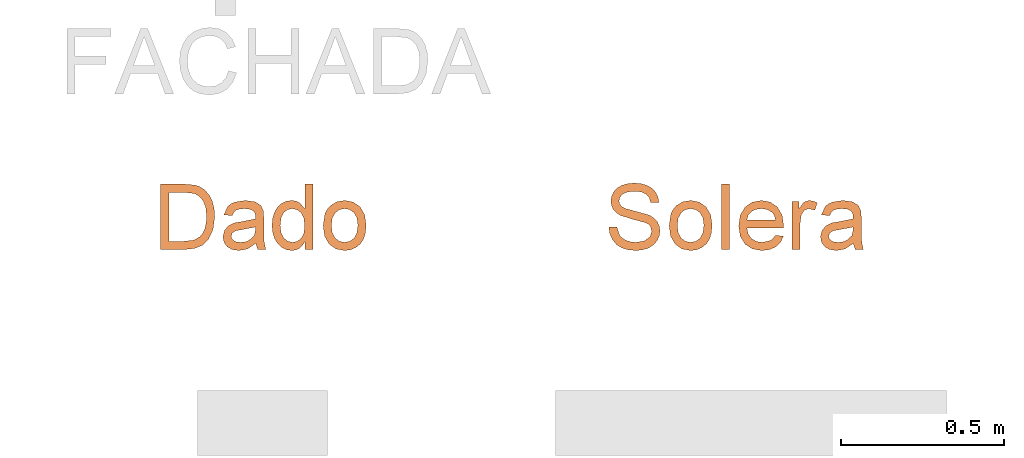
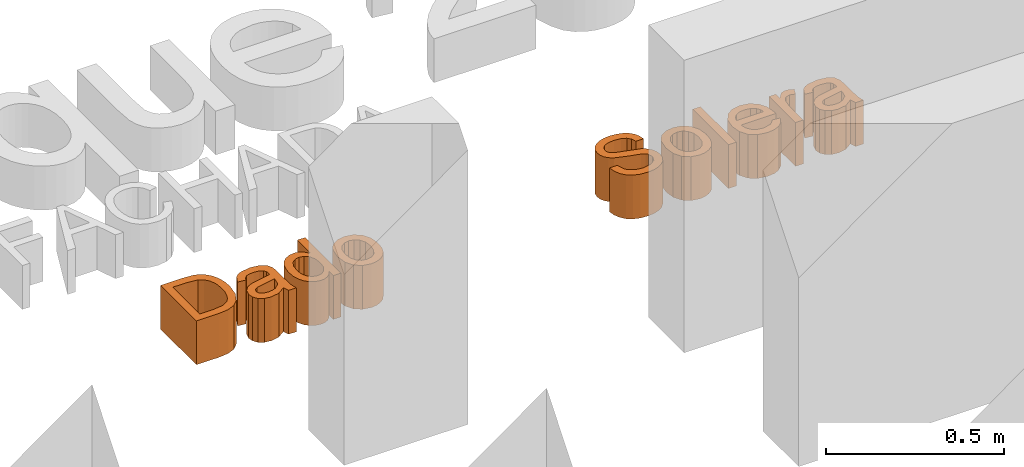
# One storey, part 19 of 19: 2 proxies.
"""IFC2X3 building model written with IfcOpenShell, lengths in metres."""

import ifcopenshell
import ifcopenshell.guid

model = None  # the IFC model being written
_history = None  # IfcOwnerHistory: only IFC2X3 demands one
_inside = {}  # id of a spatial element -> (the spatial element, [elements in it])
_under = {}  # id of a project, library or spatial element -> (it, [spatial elements below it])
_declared = {}  # id of a project -> (the project, [libraries it declares])
_typed = {}  # id of a type object -> (the type object, [elements of that type])
_made_of = {}  # id of a material, layer set ... -> (it, [elements and type objects made of it])


def new_model(schema):
    """Start an empty IFC model of exactly this schema.

    Asked for "IFC4X3", IfcOpenShell would pick the latest addendum, in which some entities
    have other attributes; the version numbers below select the first issue.
    IFC2X3 requires an IfcOwnerHistory on every rooted entity: one is made here for all.
    """
    global model, _history
    if schema == "IFC4X3":
        model = ifcopenshell.file(schema_version=(4, 3, 0, 0))
    else:
        model = ifcopenshell.file(schema=schema)
    _inside.clear()
    _under.clear()
    _declared.clear()
    _typed.clear()
    _made_of.clear()
    _history = None
    if model.schema == "IFC2X3":
        org = make("IfcOrganization", Name="unknown")
        user = make(
            "IfcPersonAndOrganization",
            ThePerson=make("IfcPerson", FamilyName="unknown"),
            TheOrganization=org,
        )
        app = make(
            "IfcApplication",
            ApplicationDeveloper=org,
            Version="unknown",
            ApplicationFullName="unknown",
            ApplicationIdentifier="unknown",
        )
        _history = make(
            "IfcOwnerHistory",
            OwningUser=user,
            OwningApplication=app,
            ChangeAction="ADDED",
            CreationDate=0,
        )
    return model


def make(cls, **values):
    """One entity of the class cls with the attributes given. An attribute that is None is left unset."""
    return model.create_entity(
        cls, **{name: value for name, value in values.items() if value is not None}
    )


def entity(cls, *values):
    """Any entity or typed value of the class cls, its attributes in the order of the schema. None: left unset."""
    e = model.create_entity(cls)
    for i, value in enumerate(values):
        if value is not None:
            e[i] = value
    return e


def rooted(cls, **values):
    """An entity with a GlobalId (a new one), such as an element, a storey or a relation."""
    return make(cls, GlobalId=ifcopenshell.guid.new(), OwnerHistory=_history, **values)


def si_unit(unit_type, name, prefix=None):
    """IfcSIUnit, for example si_unit("LENGTHUNIT", "METRE", prefix="MILLI")."""
    return make("IfcSIUnit", UnitType=unit_type, Prefix=prefix, Name=name)


def converted_unit(unit_type, name, factor, base, dimensions=None, offset=None):
    """IfcConversionBasedUnit, such as the inch: factor (a typed value) times the base unit."""
    return make(
        "IfcConversionBasedUnit"
        if offset is None
        else "IfcConversionBasedUnitWithOffset",
        ConversionOffset=offset,
        Dimensions=None
        if dimensions is None
        else entity("IfcDimensionalExponents", *dimensions),
        UnitType=unit_type,
        Name=name,
        ConversionFactor=make(
            "IfcMeasureWithUnit", ValueComponent=factor, UnitComponent=base
        ),
    )


def derived_unit(unit_type, elements):
    """IfcDerivedUnit: a product of units, each with its exponent."""
    return make(
        "IfcDerivedUnit",
        Elements=[
            make("IfcDerivedUnitElement", Unit=unit, Exponent=power)
            for unit, power in elements
        ],
        UnitType=unit_type,
    )


def assignment(units):
    """IfcUnitAssignment: the units of a project."""
    return None if units is None else make("IfcUnitAssignment", Units=units)


def point(xyz):
    """IfcCartesianPoint."""
    return None if xyz is None else make("IfcCartesianPoint", Coordinates=xyz)


def direction(xyz):
    """IfcDirection."""
    return None if xyz is None else make("IfcDirection", DirectionRatios=xyz)


def frame(location, z_axis=None, x_axis=None):
    """IfcAxis2Placement3D, a coordinate frame: its origin and axes. An axis left out is left unset."""
    return make(
        "IfcAxis2Placement3D",
        Location=point(location),
        Axis=direction(z_axis),
        RefDirection=direction(x_axis),
    )


def frame_2d(location, x_axis=None):
    """IfcAxis2Placement2D, a coordinate frame in the plane: its origin and x axis."""
    return make(
        "IfcAxis2Placement2D", Location=point(location), RefDirection=direction(x_axis)
    )


def origin():
    """The frame at (0, 0, 0) with its axes left unset."""
    return frame((0.0, 0.0, 0.0))


def place(relative_to, where):
    """IfcLocalPlacement: puts the frame where relative to a parent placement (None: the world)."""
    return make(
        "IfcLocalPlacement", PlacementRelTo=relative_to, RelativePlacement=where
    )


def context(
    kind, dimensions, precision=None, world=None, true_north=None, identifier=None
):
    """IfcGeometricRepresentationContext, for example the 3D "Model" context."""
    return make(
        "IfcGeometricRepresentationContext",
        ContextIdentifier=identifier,
        ContextType=kind,
        CoordinateSpaceDimension=dimensions,
        Precision=precision,
        WorldCoordinateSystem=world,
        TrueNorth=true_north,
    )


def subcontext(parent, identifier, kind, view, scale=None):
    """IfcGeometricRepresentationSubContext, for example "Body" below "Model"."""
    return make(
        "IfcGeometricRepresentationSubContext",
        ContextIdentifier=identifier,
        ContextType=kind,
        ParentContext=parent,
        TargetScale=scale,
        TargetView=view,
    )


def project(units=None, contexts=None):
    """IfcProject with its units and contexts."""
    return rooted(
        "IfcProject",
        Name="project",
        RepresentationContexts=contexts,
        UnitsInContext=assignment(units),
    )


def spatial(cls, under=None, at=None, **own):
    """A site, building, storey or space (cls), placed at a placement, below another one or the project."""
    s = rooted(cls, ObjectPlacement=at, **own)
    if under is not None:
        _under.setdefault(under.id(), (under, []))[1].append(s)
    return s


def polyline(points):
    """IfcPolyline through the points."""
    return make("IfcPolyline", Points=[point(p) for p in points])


def profile(cls, at=None, kind="AREA", **sizes):
    """A parametric profile (cls). Its sizes go by their IFC names, for example OverallWidth=200.0."""
    return make(cls, ProfileType=kind, Position=at, **sizes)


def rectangle(**sizes):
    """IfcRectangleProfileDef."""
    return profile("IfcRectangleProfileDef", **sizes)


def outline(outer, holes=None, kind="AREA"):
    """IfcArbitraryClosedProfileDef: a profile drawn as a closed curve; with holes, ...WithVoids."""
    if holes is None:
        return make("IfcArbitraryClosedProfileDef", ProfileType=kind, OuterCurve=outer)
    return make(
        "IfcArbitraryProfileDefWithVoids",
        ProfileType=kind,
        OuterCurve=outer,
        InnerCurves=holes,
    )


def extrude(swept, where, along, depth):
    """IfcExtrudedAreaSolid: the profile swept, set in the frame where, extruded along a direction by depth."""
    return make(
        "IfcExtrudedAreaSolid",
        SweptArea=swept,
        Position=where,
        ExtrudedDirection=direction(along),
        Depth=depth,
    )


def shape(context_of_items, identifier, shape_type, items):
    """IfcShapeRepresentation: the items that make up one representation, for example the "Body"."""
    return make(
        "IfcShapeRepresentation",
        ContextOfItems=context_of_items,
        RepresentationIdentifier=identifier,
        RepresentationType=shape_type,
        Items=items,
    )


def made_of(thing, what):
    """Note that an element or type object is made of a material, layer set ...; save() writes the relation."""
    if what is not None:
        _made_of.setdefault(what.id(), (what, []))[1].append(thing)
    return thing


def type_object(cls, material=None, **own):
    """A type object (cls), such as IfcWallType, which elements share."""
    return made_of(rooted(cls, **own), material)


def element(
    cls,
    number,
    at=None,
    inside=None,
    cuts=None,
    type_object=None,
    material=None,
    context=None,
    identifier="Body",
    shape_type=None,
    held_by="IfcProductDefinitionShape",
    body=None,
    shapes=None,
    **own,
):
    """One element of the class cls, such as IfcWall. Its Tag is "e" and its number.

    at: its placement. inside: the storey or other place that contains it. cuts: it is an
    opening in that element (IfcRelVoidsElement). A single representation is given by context,
    identifier, shape_type and body (its items); several are given by shapes. held_by: the class
    of the entity that holds the representations. save() writes the other relations.
    """
    e = rooted(cls, Tag="e%d" % number, ObjectPlacement=at, **own)
    if body is not None:
        shapes = [shape(context, identifier, shape_type, body)]
    if shapes is not None:
        e.Representation = make(held_by, Representations=shapes)
    if inside is not None:
        _inside.setdefault(inside.id(), (inside, []))[1].append(e)
    if cuts is not None:
        rooted(
            "IfcRelVoidsElement", RelatingBuildingElement=cuts, RelatedOpeningElement=e
        )
    if type_object is not None:
        _typed.setdefault(type_object.id(), (type_object, []))[1].append(e)
    return made_of(e, material)


def aggregate(whole, parts):
    """IfcRelAggregates: a whole, such as a stair, and the parts it consists of."""
    return rooted("IfcRelAggregates", RelatingObject=whole, RelatedObjects=parts)


def save(model, path):
    """Write the relations noted so far, then the file.

    IfcRelAggregates (storeys below a building ...), IfcRelContainedInSpatialStructure (elements
    in a storey), IfcRelDefinesByType, IfcRelAssociatesMaterial and IfcRelDeclares: one each for
    every whole, place, type object, material and project.
    """
    for whole, parts in _under.values():
        aggregate(whole, parts)
    for where, things in _inside.values():
        rooted(
            "IfcRelContainedInSpatialStructure",
            RelatedElements=things,
            RelatingStructure=where,
        )
    for kind, things in _typed.values():
        rooted("IfcRelDefinesByType", RelatedObjects=things, RelatingType=kind)
    for what, things in _made_of.values():
        rooted("IfcRelAssociatesMaterial", RelatedObjects=things, RelatingMaterial=what)
    for by, libraries in _declared.values():
        rooted("IfcRelDeclares", RelatingContext=by, RelatedDefinitions=libraries)
    model.write(path)


model = new_model("IFC2X3")

# Units and contexts
model_context = context("Model", 3, precision=1e-05, world=origin(), true_north=direction((6.12303176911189e-17, 1.0)))
body_context = subcontext(model_context, "Body", "Model", "MODEL_VIEW")
ifc_project = project(units=[si_unit("LENGTHUNIT", "METRE"), si_unit("AREAUNIT", "SQUARE_METRE"), si_unit("VOLUMEUNIT", "CUBIC_METRE"), converted_unit("PLANEANGLEUNIT", "DEGREE", entity("IfcRatioMeasure", 0.0174532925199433), si_unit("PLANEANGLEUNIT", "RADIAN"), dimensions=[0, 0, 0, 0, 0, 0, 0]), si_unit("MASSUNIT", "GRAM", prefix="KILO"), derived_unit("MASSDENSITYUNIT", [(si_unit("MASSUNIT", "GRAM", prefix="KILO"), 1), (si_unit("LENGTHUNIT", "METRE"), -3)]), derived_unit("MOMENTOFINERTIAUNIT", [(si_unit("LENGTHUNIT", "METRE"), 4)]), si_unit("TIMEUNIT", "SECOND"), si_unit("FREQUENCYUNIT", "HERTZ"), si_unit("THERMODYNAMICTEMPERATUREUNIT", "DEGREE_CELSIUS"), derived_unit("THERMALTRANSMITTANCEUNIT", [(si_unit("MASSUNIT", "GRAM", prefix="KILO"), 1), (si_unit("THERMODYNAMICTEMPERATUREUNIT", "KELVIN"), -1), (si_unit("TIMEUNIT", "SECOND"), -3)]), derived_unit("VOLUMETRICFLOWRATEUNIT", [(si_unit("LENGTHUNIT", "METRE"), 3), (si_unit("TIMEUNIT", "SECOND"), -1)]), si_unit("ELECTRICCURRENTUNIT", "AMPERE"), si_unit("ELECTRICVOLTAGEUNIT", "VOLT"), si_unit("POWERUNIT", "WATT"), si_unit("FORCEUNIT", "NEWTON", prefix="KILO"), si_unit("ILLUMINANCEUNIT", "LUX"), si_unit("LUMINOUSFLUXUNIT", "LUMEN"), si_unit("LUMINOUSINTENSITYUNIT", "CANDELA"), derived_unit("USERDEFINED", [(si_unit("MASSUNIT", "GRAM", prefix="KILO"), -1), (si_unit("LENGTHUNIT", "METRE"), -2), (si_unit("TIMEUNIT", "SECOND"), 3), (si_unit("LUMINOUSFLUXUNIT", "LUMEN"), 1)]), derived_unit("LINEARVELOCITYUNIT", [(si_unit("LENGTHUNIT", "METRE"), 1), (si_unit("TIMEUNIT", "SECOND"), -1)]), si_unit("PRESSUREUNIT", "PASCAL"), derived_unit("USERDEFINED", [(si_unit("LENGTHUNIT", "METRE"), -2), (si_unit("MASSUNIT", "GRAM", prefix="KILO"), 1), (si_unit("TIMEUNIT", "SECOND"), -2)]), derived_unit("LINEARFORCEUNIT", [(si_unit("MASSUNIT", "GRAM", prefix="KILO"), 1), (si_unit("LENGTHUNIT", "METRE"), 1), (si_unit("TIMEUNIT", "SECOND"), -2), (si_unit("LENGTHUNIT", "METRE"), -1)]), derived_unit("PLANARFORCEUNIT", [(si_unit("MASSUNIT", "GRAM", prefix="KILO"), 1), (si_unit("LENGTHUNIT", "METRE"), 1), (si_unit("TIMEUNIT", "SECOND"), -2), (si_unit("LENGTHUNIT", "METRE"), -2)])], contexts=[model_context])

# Site, building, storey
site_placement = place(None, origin())
site = spatial("IfcSite", under=ifc_project, at=site_placement, Name="Default", CompositionType="ELEMENT")
building_placement = place(site_placement, origin())
building = spatial("IfcBuilding", under=site, at=building_placement, CompositionType="ELEMENT")
storey_placement = place(building_placement, origin())
storey = spatial("IfcBuildingStorey", under=building, at=storey_placement, Name="Nivel 1", CompositionType="ELEMENT", Elevation=0.0)

# Proxies
building_element_proxy_type_1 = type_object("IfcBuildingElementProxyType", Name="Texto de modelo:Subtítulo", PredefinedType="NOTDEFINED")
proxy_1_placement = place(storey_placement, origin())
element("IfcBuildingElementProxy", 1, at=proxy_1_placement, inside=storey, type_object=building_element_proxy_type_1, Name="Texto de modelo:Subtítulo", ObjectType="Texto de modelo:Subtítulo", context=body_context, shape_type="SweptSolid", body=[
    extrude(outline(polyline([(-0.112205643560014, -0.108781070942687), (-0.0395612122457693, -0.108781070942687), (-0.00726117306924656, -0.105347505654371), (0.0167492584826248, -0.0952675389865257), (0.0350943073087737, -0.0770451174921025), (0.0488285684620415, -0.0477862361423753), (0.0541751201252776, -0.00724564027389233), (0.052200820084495, 0.0181382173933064), (0.0462779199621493, 0.0405299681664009), (0.0363818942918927, 0.0595617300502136), (0.0224882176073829, 0.074865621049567), (0.00897468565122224, 0.0836580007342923), (-0.00704044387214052, 0.0892375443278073), (-0.0428966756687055, 0.0921315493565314), (-0.112205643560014, 0.0921315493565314), (-0.112205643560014, -0.108781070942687)]), holes=[polyline([(-0.0870915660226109, -0.0836669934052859), (-0.0870915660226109, 0.0670174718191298), (-0.0433381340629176, 0.0670174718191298), (-0.00772715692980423, 0.06299529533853), (0.00646695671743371, 0.0546075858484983), (0.0183434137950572, 0.0407261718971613), (0.0263816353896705, 0.0205171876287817), (0.029061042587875, -0.00685323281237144), (0.027693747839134, -0.0275098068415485), (0.0235918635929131, -0.04484318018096), (0.0170374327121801, -0.0589146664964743), (0.00831249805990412, -0.0697855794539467), (-0.0103268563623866, -0.0800372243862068), (-0.0426514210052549, -0.0836669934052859), (-0.0870915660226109, -0.0836669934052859)])]), frame((8.85097390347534, 10.1620496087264, 0.0)), (0.0, 0.0, 1.0), 0.15),
    extrude(outline(polyline([(0.0711345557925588, 0.0146039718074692), (0.0909889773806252, 0.0146039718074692), (0.0989307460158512, 0.0384292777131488), (0.0773157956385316, 0.0403604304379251), (0.0355206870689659, 0.0529478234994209), (0.00587865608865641, 0.0628285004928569), (-0.0153562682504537, 0.0686142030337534), (-0.0339620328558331, 0.0666985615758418), (-0.0500317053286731, 0.0539327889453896), (-0.0638910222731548, 0.0264700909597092), (-0.0695759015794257, -0.00656115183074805), (-0.0677610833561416, -0.0204670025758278), (-0.0628595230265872, -0.0318600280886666), (-0.0430283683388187, -0.049922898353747), (-0.0321084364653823, -0.0270903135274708), (-0.0404360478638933, -0.0190535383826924), (-0.0445407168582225, -0.0101752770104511), (-0.0446745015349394, 0.000882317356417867), (-0.0410894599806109, 0.0154570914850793), (-0.0342567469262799, 0.0302160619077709), (-0.0254230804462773, 0.039499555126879), (-0.0168259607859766, 0.0421015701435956), (-0.00564621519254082, 0.0401975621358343), (-0.000387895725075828, 0.0382896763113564), (-0.00597195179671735, -0.00576232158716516), (-0.0092603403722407, -0.0275711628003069), (-0.00700345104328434, -0.0468594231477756), (0.00268333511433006, -0.0634021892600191), (0.0200094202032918, -0.0742445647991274), (0.0370349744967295, -0.0765654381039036), (0.0529320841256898, -0.0718015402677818), (0.0663086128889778, -0.0599412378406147), (0.0757724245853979, -0.0409728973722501), (0.0795804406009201, -0.0138824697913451), (0.0711345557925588, 0.0146039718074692)]), holes=[polyline([(0.0234839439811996, 0.0304875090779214), (0.0301848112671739, 0.028098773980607), (0.0473557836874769, 0.0181870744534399), (0.0559722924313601, -0.00195430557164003), (0.0564783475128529, -0.0146871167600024), (0.053637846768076, -0.0279589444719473), (0.0483232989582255, -0.0395982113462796), (0.0415313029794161, -0.0470610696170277), (0.0339521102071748, -0.0504483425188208), (0.026275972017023, -0.0498608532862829), (0.0181946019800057, -0.0435477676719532), (0.0150070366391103, -0.032170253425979), (0.0179774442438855, -0.0103846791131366), (0.0234839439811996, 0.0304875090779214)])]), frame((8.9943701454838, 10.1349700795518, 0.0), z_axis=(0.0, 0.0, 1.0), x_axis=(0.316227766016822, -0.948683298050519, 0.0)), (0.0, 0.0, 1.0), 0.15),
    extrude(outline(polyline([(0.0429290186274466, -0.0757009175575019), (0.0680430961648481, -0.0757009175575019), (0.0680430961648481, 0.125211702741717), (0.0429290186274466, 0.125211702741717), (0.0429290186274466, 0.0503599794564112), (0.0263988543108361, 0.0681409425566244), (0.0155340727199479, 0.0732728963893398), (0.00324681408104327, 0.0749835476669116), (-0.0136205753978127, 0.0725923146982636), (-0.0288079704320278, 0.0654186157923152), (-0.0413650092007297, 0.0537567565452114), (-0.0503413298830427, 0.0379010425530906), (-0.0557308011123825, 0.018930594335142), (-0.0575272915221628, -0.00207546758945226), (-0.0555775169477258, -0.0233451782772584), (-0.0497281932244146, -0.0420274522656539), (-0.0403349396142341, -0.0574968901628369), (-0.0277533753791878, -0.0691280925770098), (-0.0128909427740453, -0.0764121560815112), (0.0033449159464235, -0.0788401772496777), (0.0156229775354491, -0.0771632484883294), (0.0263130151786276, -0.0721324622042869), (0.0354150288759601, -0.0637478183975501), (0.0429290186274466, -0.0520093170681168), (0.0429290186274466, -0.0757009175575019)]), holes=[polyline([(-0.0324132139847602, -0.00197736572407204), (-0.0297644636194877, 0.0213034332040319), (-0.0218182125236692, 0.0373860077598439), (-0.00991109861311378, 0.0467486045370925), (0.00462024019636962, 0.0498694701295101), (0.0195255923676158, 0.0466198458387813), (0.0318680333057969, 0.0368709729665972), (0.0401637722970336, 0.0201813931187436), (0.0429290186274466, -0.00389035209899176), (0.0402128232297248, -0.0259080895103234), (0.0320642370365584, -0.0414388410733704), (0.0200283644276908, -0.0506542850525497), (0.00565030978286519, -0.0537260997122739), (-0.00873387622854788, -0.0505071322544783), (-0.0210824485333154, -0.0408502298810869), (-0.029580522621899, -0.0246940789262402), (-0.0324132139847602, -0.00197736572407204)])]), frame((9.1384748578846, 10.1289694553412, 0.0)), (0.0, 0.0, 1.0), 0.15),
    extrude(outline(polyline([(-0.0116534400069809, -0.0669843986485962), (0.0215735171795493, -0.0669843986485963), (0.0474010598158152, -0.0567621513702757), (0.0650090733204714, -0.0379496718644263), (0.0735774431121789, -0.0121789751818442), (0.0737787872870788, 0.0056879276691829), (0.0693254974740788, 0.0227506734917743), (0.0604863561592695, 0.037820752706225), (0.0475301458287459, 0.0497096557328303), (0.0292360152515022, 0.0584068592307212), (0.00438311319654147, 0.0639018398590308), (-0.0272289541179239, 0.0636287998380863), (-0.0525847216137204, 0.0531926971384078), (-0.0702507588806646, 0.0343634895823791), (-0.0787936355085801, 0.00891113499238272), (-0.0780541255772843, -0.0155295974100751), (-0.0686800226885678, -0.0371544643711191), (-0.0589084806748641, -0.0481042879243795), (-0.0461468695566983, -0.0567258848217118), (-0.0116534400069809, -0.0669843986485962)]), holes=[polyline([(-0.00825874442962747, -0.0421007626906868), (-0.0303624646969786, -0.0361073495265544), (-0.045170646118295, -0.0252557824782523), (-0.0529373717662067, -0.0109345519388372), (-0.0539167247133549, 0.0054678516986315), (-0.0485294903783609, 0.0208219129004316), (-0.0371292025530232, 0.0324839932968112), (-0.0201048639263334, 0.0389852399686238), (0.00215452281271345, 0.038856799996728), (0.024762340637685, 0.032793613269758), (0.039819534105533, 0.0219075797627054), (0.0476807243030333, 0.00759803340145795), (0.0487005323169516, -0.00873569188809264), (0.0432906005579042, -0.0242537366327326), (0.0318894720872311, -0.035921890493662), (0.0146540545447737, -0.0423382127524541), (-0.00825874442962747, -0.0421007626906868)])]), frame((9.30586013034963, 10.1246816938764, 0.0), z_axis=(0.0, 0.0, 1.0), x_axis=(0.137105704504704, -0.990556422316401, 0.0)), (0.0, 0.0, 1.0), 0.15),
])
building_element_proxy_type_2 = type_object("IfcBuildingElementProxyType", Name="Texto de modelo:Subtítulo", PredefinedType="NOTDEFINED")
proxy_2_placement = place(storey_placement, origin())
element("IfcBuildingElementProxy", 2, at=proxy_2_placement, inside=storey, type_object=building_element_proxy_type_2, Name="Texto de modelo:Subtítulo", ObjectType="Texto de modelo:Subtítulo", context=body_context, shape_type="SweptSolid", body=[
    extrude(outline(polyline([(0.0218430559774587, -0.0830511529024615), (0.042343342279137, -0.0830511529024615), (0.0613692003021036, -0.0779015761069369), (0.077829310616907, -0.0679440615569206), (0.0906323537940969, -0.0535202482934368), (0.099836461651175, -0.0344031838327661), (0.105499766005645, -0.0103659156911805), (0.106478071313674, 0.0097489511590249), (0.103281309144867, 0.0283577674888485), (0.0961570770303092, 0.0444883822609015), (0.0853529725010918, 0.0571686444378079), (0.0719268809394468, 0.0659642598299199), (0.0569366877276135, 0.0704409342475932), (0.0416687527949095, 0.0707071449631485), (0.0277006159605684, 0.0668285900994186), (0.0151233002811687, 0.0585811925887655), (0.00402782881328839, 0.0457408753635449), (-0.0149040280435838, 0.00360508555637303), (-0.0258166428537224, -0.0219105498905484), (-0.0347441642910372, -0.0349268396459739), (-0.0432956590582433, -0.0397313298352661), (-0.0531344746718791, -0.0403061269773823), (-0.0639228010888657, -0.035870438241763), (-0.07211984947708, -0.0261140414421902), (-0.0763993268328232, -0.0106988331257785), (-0.0754349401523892, 0.0107132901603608), (-0.0702469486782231, 0.0310091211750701), (-0.061584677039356, 0.0449195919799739), (-0.0494863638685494, 0.0528593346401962), (-0.0339902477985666, 0.0552429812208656), (-0.0303397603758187, 0.0800903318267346), (-0.0472153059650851, 0.0797065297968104), (-0.0628948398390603, 0.074808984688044), (-0.0766029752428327, 0.0654449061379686), (-0.0875643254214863, 0.0516615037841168), (-0.0955734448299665, 0.0340978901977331), (-0.100424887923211, 0.0133931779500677), (-0.101575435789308, -0.00620680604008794), (-0.099066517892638, -0.0244356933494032), (-0.0928592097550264, -0.0402270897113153), (-0.0829145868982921, -0.0525146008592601), (-0.0702935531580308, -0.0609688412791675), (-0.0560570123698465, -0.0652604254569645), (-0.0427830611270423, -0.0654319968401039), (-0.0303321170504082, -0.0619254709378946), (-0.0189136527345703, -0.0546481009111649), (-0.00873714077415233, -0.0435071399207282), (0.00923839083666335, -0.00636211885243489), (0.024041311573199, 0.0284230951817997), (0.0307494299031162, 0.0382702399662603), (0.0378057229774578, 0.0436538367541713), (0.0539170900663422, 0.0455008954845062), (0.0697778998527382, 0.0375436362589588), (0.0797867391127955, 0.0189441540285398), (0.0805098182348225, -0.00768602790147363), (0.0767013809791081, -0.0231896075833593), (0.0701386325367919, -0.0366028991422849), (0.0615194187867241, -0.0470988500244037), (0.051541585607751, -0.0538504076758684), (0.0254935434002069, -0.0582038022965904), (0.0218430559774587, -0.0830511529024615)])), frame((10.1938583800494, 10.1560153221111, 0.0), z_axis=(0.0, 0.0, 1.0), x_axis=(0.145356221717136, -0.98937938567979, 0.0)), (0.0, 0.0, 1.0), 0.15),
    extrude(outline(polyline([(-0.0116534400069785, -0.0669843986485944), (0.0215735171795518, -0.0669843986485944), (0.0474010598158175, -0.0567621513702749), (0.0650090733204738, -0.0379496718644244), (0.0735774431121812, -0.0121789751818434), (0.0737787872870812, 0.00568792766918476), (0.0693254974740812, 0.0227506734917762), (0.0604863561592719, 0.0378207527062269), (0.0475301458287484, 0.0497096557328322), (0.0292360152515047, 0.0584068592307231), (0.00438311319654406, 0.0639018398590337), (-0.0272289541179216, 0.0636287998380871), (-0.0525847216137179, 0.0531926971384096), (-0.0702507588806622, 0.0343634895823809), (-0.0787936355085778, 0.00891113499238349), (-0.0780541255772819, -0.0155295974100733), (-0.0686800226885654, -0.0371544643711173), (-0.0589084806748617, -0.0481042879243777), (-0.046146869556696, -0.056725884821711), (-0.0116534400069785, -0.0669843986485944)]), holes=[polyline([(-0.00825874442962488, -0.0421007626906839), (-0.0303624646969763, -0.0361073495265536), (-0.0451706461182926, -0.0252557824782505), (-0.0529373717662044, -0.0109345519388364), (-0.0539167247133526, 0.00546785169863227), (-0.0485294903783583, 0.0208219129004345), (-0.0371292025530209, 0.032483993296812), (-0.0201048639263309, 0.0389852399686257), (0.00215452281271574, 0.0388567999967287), (0.0247623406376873, 0.0327936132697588), (0.0398195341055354, 0.0219075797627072), (0.0476807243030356, 0.00759803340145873), (0.0487005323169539, -0.00873569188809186), (0.0432906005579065, -0.0242537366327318), (0.0318894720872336, -0.0359218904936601), (0.014654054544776, -0.0423382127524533), (-0.00825874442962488, -0.0421007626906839)])]), frame((10.3680302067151, 10.1246816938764, 0.0), z_axis=(0.0, 0.0, 1.0), x_axis=(0.137105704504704, -0.990556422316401, 0.0)), (0.0, 0.0, 1.0), 0.15),
    extrude(rectangle(XDim=0.0251140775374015, YDim=0.200912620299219, at=frame_2d((0.0, 1.08246744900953e-15), x_axis=(1.0, 0.0))), frame((10.4727399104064, 10.1537248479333, 0.0)), (0.0, 0.0, 1.0), 0.15),
    extrude(outline(polyline([(-0.00993794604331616, -0.0410894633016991), (-0.021626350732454, -0.0629882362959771), (-0.00136076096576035, -0.0664886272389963), (0.0181427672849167, -0.0629678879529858), (0.0362596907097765, -0.052373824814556), (0.0523654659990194, -0.0346542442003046), (0.0653616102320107, -0.00774419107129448), (0.0663157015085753, 0.0193800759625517), (0.0551946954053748, 0.044997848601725), (0.0319655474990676, 0.0673884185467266), (0.00225549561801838, 0.0824990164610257), (-0.026308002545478, 0.0848576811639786), (-0.05179241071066, 0.0755140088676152), (-0.0722651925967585, 0.0555175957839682), (-0.0838796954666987, 0.030311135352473), (-0.0839813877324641, 0.00365713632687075), (-0.0721795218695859, -0.0222407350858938), (-0.0480833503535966, -0.045178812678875), (-0.0424775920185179, -0.0489757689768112), (0.0228336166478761, 0.0430743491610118), (0.0356497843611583, 0.0286508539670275), (0.0410775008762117, 0.012417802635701), (0.0395747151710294, -0.00438600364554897), (0.0315993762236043, -0.0205217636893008), (0.0130702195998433, -0.0375669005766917), (0.00222602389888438, -0.0410894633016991), (-0.00993794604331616, -0.0410894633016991)]), holes=[polyline([(0.00235136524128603, 0.0576068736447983), (-0.0485124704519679, -0.0140810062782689), (-0.0573680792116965, -0.0036328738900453), (-0.0612558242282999, 0.00728999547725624), (-0.0599840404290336, 0.0243403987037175), (-0.0517261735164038, 0.0410650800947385), (-0.0400149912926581, 0.0535127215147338), (-0.0261693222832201, 0.0608523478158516), (-0.0115826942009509, 0.0624337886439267), (0.00235136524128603, 0.0576068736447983)])]), frame((10.5870073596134, 10.1128899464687, 0.0), z_axis=(0.0, 0.0, -1.0), x_axis=(-0.578660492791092, -0.815568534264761, 0.0)), (0.0, 0.0, -1.0), 0.15),
    extrude(outline(polyline([(-0.0370877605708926, -0.111431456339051), (-0.011973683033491, -0.111431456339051), (-0.011973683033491, -0.0338819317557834), (-0.00790245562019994, -0.00454947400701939), (0.00114744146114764, 0.0091847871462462), (0.0153476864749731, 0.0141389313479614), (0.0330060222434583, 0.00898858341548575), (0.0413937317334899, 0.031502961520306), (0.0286895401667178, 0.0373154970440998), (0.016181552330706, 0.039253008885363), (0.000485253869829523, 0.0343969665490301), (-0.0151129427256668, 0.0142860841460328), (-0.0151129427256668, 0.0361137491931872), (-0.0370877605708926, 0.0361137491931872), (-0.0370877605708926, -0.111431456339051)])), frame((10.7138795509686, 10.1646999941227, 0.0)), (0.0, 0.0, 1.0), 0.15),
    extrude(outline(polyline([(0.0711345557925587, 0.0146039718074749), (0.0909889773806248, 0.0146039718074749), (0.0989307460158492, 0.0384292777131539), (0.0773157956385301, 0.0403604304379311), (0.0355206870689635, 0.0529478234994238), (0.00587865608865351, 0.0628285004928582), (-0.0153562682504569, 0.0686142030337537), (-0.0339620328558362, 0.066698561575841), (-0.0500317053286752, 0.053932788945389), (-0.0638910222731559, 0.0264700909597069), (-0.0695759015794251, -0.00656115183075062), (-0.0677610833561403, -0.0204670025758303), (-0.0628595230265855, -0.0318600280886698), (-0.0430283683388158, -0.0499228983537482), (-0.0321084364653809, -0.0270903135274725), (-0.0404360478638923, -0.0190535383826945), (-0.044540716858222, -0.0101752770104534), (-0.0446745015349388, 0.000882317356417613), (-0.0410894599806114, 0.0154570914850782), (-0.0342567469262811, 0.0302160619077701), (-0.025423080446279, 0.0394995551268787), (-0.0168259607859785, 0.0421015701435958), (-0.00564621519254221, 0.040197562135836), (-0.000387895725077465, 0.0382896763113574), (-0.00597195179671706, -0.00576232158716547), (-0.00926034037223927, -0.0275711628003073), (-0.00700345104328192, -0.046859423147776), (0.00268333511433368, -0.0634021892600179), (0.020009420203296, -0.0742445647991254), (0.0370349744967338, -0.0765654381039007), (0.0529320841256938, -0.0718015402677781), (0.0663086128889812, -0.0599412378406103), (0.0757724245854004, -0.0409728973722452), (0.0795804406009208, -0.013882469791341), (0.0711345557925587, 0.0146039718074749)]), holes=[polyline([(0.0234839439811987, 0.0304875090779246), (0.0301848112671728, 0.0280987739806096), (0.0473557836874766, 0.0181870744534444), (0.0559722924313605, -0.00195430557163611), (0.056478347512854, -0.0146871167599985), (0.0536378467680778, -0.0279589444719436), (0.0483232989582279, -0.0395982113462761), (0.0415313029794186, -0.0470610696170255), (0.0339521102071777, -0.050448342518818), (0.0262759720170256, -0.0498608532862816), (0.0181946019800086, -0.0435477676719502), (0.0150070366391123, -0.0321702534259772), (0.0179774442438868, -0.0103846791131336), (0.0234839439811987, 0.0304875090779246)])]), frame((10.8287981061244, 10.1349700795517, 0.0), z_axis=(0.0, 0.0, 1.0), x_axis=(0.316227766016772, -0.948683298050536, 0.0)), (0.0, 0.0, 1.0), 0.15),
])

save(model, "model.ifc")
